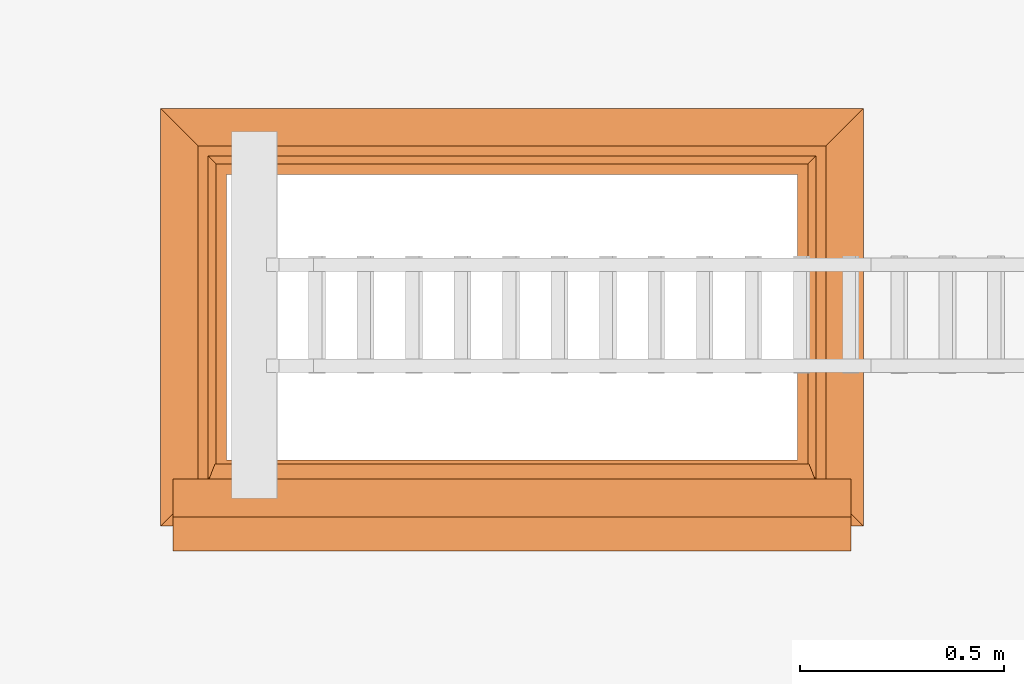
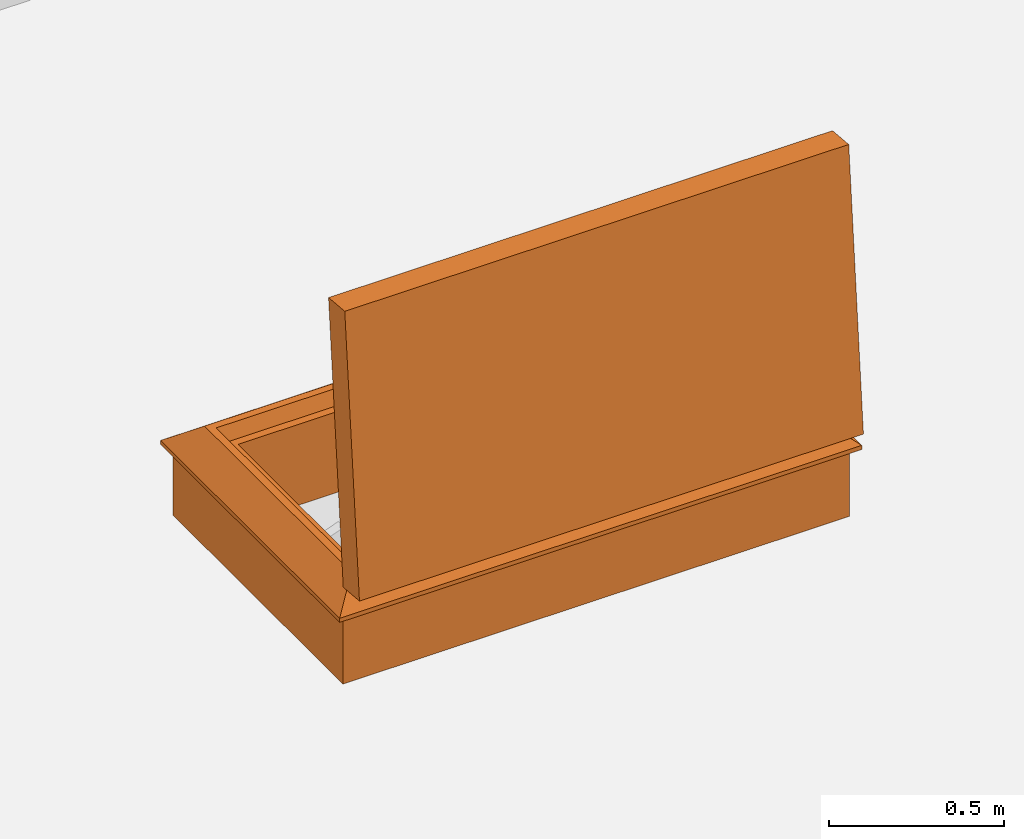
# One storey, part 26 of 28: 1 proxy.
"""IFC2X3 building model written with IfcOpenShell, lengths in millimetres."""

from ifc_helpers import new_model, entity, si_unit, converted_unit, derived_unit, direction, frame, origin, place, context, subcontext, project, spatial, faceted_brep, source, transform, mapped, type_object, type_shapes, element, save


model = new_model("IFC2X3")

# Units and contexts
model_context = context("Model", 3, precision=0.01, world=origin(), true_north=direction((6.12303176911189e-17, 1.0)))
body_context = subcontext(model_context, "Body", "Model", "MODEL_VIEW")
ifc_project = project(units=[si_unit("LENGTHUNIT", "METRE", prefix="MILLI"), si_unit("AREAUNIT", "SQUARE_METRE"), si_unit("VOLUMEUNIT", "CUBIC_METRE"), converted_unit("PLANEANGLEUNIT", "DEGREE", entity("IfcRatioMeasure", 0.0174532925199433), si_unit("PLANEANGLEUNIT", "RADIAN"), dimensions=[0, 0, 0, 0, 0, 0, 0]), si_unit("MASSUNIT", "GRAM", prefix="KILO"), derived_unit("MASSDENSITYUNIT", [(si_unit("MASSUNIT", "GRAM", prefix="KILO"), 1), (si_unit("LENGTHUNIT", "METRE"), -3)]), si_unit("TIMEUNIT", "SECOND"), si_unit("FREQUENCYUNIT", "HERTZ"), si_unit("THERMODYNAMICTEMPERATUREUNIT", "DEGREE_CELSIUS"), derived_unit("THERMALTRANSMITTANCEUNIT", [(si_unit("MASSUNIT", "GRAM", prefix="KILO"), 1), (si_unit("THERMODYNAMICTEMPERATUREUNIT", "KELVIN"), -1), (si_unit("TIMEUNIT", "SECOND"), -3)]), derived_unit("VOLUMETRICFLOWRATEUNIT", [(si_unit("LENGTHUNIT", "METRE"), 3), (si_unit("TIMEUNIT", "SECOND"), -1)]), si_unit("ELECTRICCURRENTUNIT", "AMPERE"), si_unit("ELECTRICVOLTAGEUNIT", "VOLT"), si_unit("POWERUNIT", "WATT"), si_unit("FORCEUNIT", "NEWTON", prefix="KILO"), si_unit("ILLUMINANCEUNIT", "LUX"), si_unit("LUMINOUSFLUXUNIT", "LUMEN"), si_unit("LUMINOUSINTENSITYUNIT", "CANDELA"), derived_unit("USERDEFINED", [(si_unit("MASSUNIT", "GRAM", prefix="KILO"), -1), (si_unit("LENGTHUNIT", "METRE"), -2), (si_unit("TIMEUNIT", "SECOND"), 3), (si_unit("LUMINOUSFLUXUNIT", "LUMEN"), 1)]), derived_unit("LINEARVELOCITYUNIT", [(si_unit("LENGTHUNIT", "METRE"), 1), (si_unit("TIMEUNIT", "SECOND"), -1)]), si_unit("PRESSUREUNIT", "PASCAL"), derived_unit("USERDEFINED", [(si_unit("LENGTHUNIT", "METRE"), -2), (si_unit("MASSUNIT", "GRAM", prefix="KILO"), 1), (si_unit("TIMEUNIT", "SECOND"), -2)])], contexts=[model_context])

# Site, building, storey
site_placement = place(None, origin())
site = spatial("IfcSite", under=ifc_project, at=site_placement, Name="Default", CompositionType="ELEMENT")
building_placement = place(site_placement, origin())
building = spatial("IfcBuilding", under=site, at=building_placement, CompositionType="ELEMENT")
storey_placement = place(building_placement, frame((0.0, 0.0, 4000.0)))
storey = spatial("IfcBuildingStorey", under=building, at=storey_placement, Name="Level 2", CompositionType="ELEMENT", Elevation=4000.0)

# Proxy
building_element_proxy_type = type_object("IfcBuildingElementProxyType", Name="1400 x 700 3part Stair", PredefinedType="NOTDEFINED")
shared_shape = source(origin(), body_context, "Body", "Brep", [
    faceted_brep([(-1499.57464776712, -351.993124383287, 340.652428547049), (-1499.57464776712, -350.619817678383, 341.518171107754), (-1499.57464776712, -349.079207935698, 342.030033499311), (-1499.57464776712, -347.460863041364, 342.158257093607), (-1499.57464776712, -345.858870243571, 341.89538723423), (-1499.57464776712, -344.366366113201, 341.256706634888), (-1499.57464776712, -343.070121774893, 340.279346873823), (-1499.57464776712, -342.045498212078, 339.020129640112), (-1499.57464776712, -341.352064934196, 337.552263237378), (-1499.57464776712, -341.030136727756, 335.961086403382), (-1499.57464776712, -341.098429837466, 334.339106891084), (-1499.57464776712, -340.635094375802, 329.90669213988), (-1499.57464776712, -337.979621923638, 326.327663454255), (-1499.57464776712, -304.11313780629, 313.826813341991), (-1499.57464776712, -350.965266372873, 276.345110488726), (-1499.57464776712, -360.90830222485, 288.773905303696), (-1499.57464776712, -361.276948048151, 290.251026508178), (-1499.57464776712, -361.242166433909, 291.7730570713), (-1499.57464776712, -353.932832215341, 338.078280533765), (-1499.57464776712, -353.119286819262, 339.483138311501), (-1472.20689636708, -337.979621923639, 326.327663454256), (-1472.20689636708, -304.113137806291, 313.826813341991), (-1472.20689636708, -350.965266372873, 276.345110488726), (-1472.20689636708, -360.90830222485, 288.773905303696), (-1489.14512741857, -360.908302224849, 288.773905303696), (-1488.70057290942, -361.276948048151, 290.251026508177), (-1472.20689636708, -361.276948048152, 290.251026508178), (-1472.20689636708, -361.242166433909, 291.7730570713), (-1489.14512741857, -361.242166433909, 291.7730570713), (-1472.20689636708, -353.932832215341, 338.078280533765), (-1472.20689636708, -353.119286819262, 339.483138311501), (-1472.20689636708, -351.993124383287, 340.652428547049), (-1472.20689636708, -350.619817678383, 341.518171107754), (-1472.20689636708, -349.079207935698, 342.030033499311), (-1472.20689636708, -347.460863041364, 342.158257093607), (-1472.20689636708, -345.858870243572, 341.89538723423), (-1472.20689636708, -343.070121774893, 340.279346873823), (-1472.20689636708, -344.366366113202, 341.256706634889), (-1472.20689636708, -342.045498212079, 339.020129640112), (-1472.20689636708, -341.352064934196, 337.552263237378), (-1472.20689636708, -341.030136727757, 335.961086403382), (-1472.20689636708, -341.098429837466, 334.339106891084), (-1472.20689636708, -340.635094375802, 329.90669213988)], [[[0, 1, 2, 3, 4, 5, 6, 7, 8, 9, 10, 11, 12, 13, 14, 15, 16, 17, 18, 19]], [[13, 12, 20, 21]], [[14, 13, 21, 22]], [[14, 22, 23, 24, 15]], [[25, 16, 15, 24, 23, 26]], [[25, 26, 27, 28, 17, 16]], [[18, 17, 28, 27, 29]], [[30, 19, 18, 29]], [[31, 0, 19, 30]], [[2, 1, 32, 33]], [[31, 32, 1, 0]], [[3, 2, 33, 34]], [[4, 3, 34, 35]], [[36, 6, 5, 37]], [[38, 7, 6, 36]], [[9, 8, 39, 40]], [[38, 39, 8, 7]], [[10, 9, 40, 41]], [[37, 5, 4, 35]], [[41, 42, 11, 10]], [[20, 12, 11, 42]], [[22, 21, 20, 42, 41, 40, 39, 38, 36, 37, 35, 34, 33, 32, 31, 30, 29, 27, 26, 23]]]),
    faceted_brep([(-182.337074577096, -304.113137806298, 313.826813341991), (-182.337074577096, -337.979621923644, 326.327663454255), (-152.350888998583, -337.979621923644, 326.327663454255), (-152.350888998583, -304.113137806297, 313.826813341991), (-182.337074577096, -350.96526637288, 276.345110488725), (-152.350888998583, -350.965266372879, 276.345110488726), (-182.337074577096, -360.908302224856, 288.773905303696), (-152.350888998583, -360.908302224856, 288.773905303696), (-161.478030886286, -360.908302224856, 288.773905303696), (-171.90755260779, -360.908302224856, 288.773905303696), (-152.350888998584, -361.276948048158, 290.251026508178), (-182.337074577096, -361.276948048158, 290.251026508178), (-162.780411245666, -361.242166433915, 291.7730570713), (-152.350888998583, -361.242166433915, 291.7730570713), (-173.209933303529, -361.242166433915, 291.7730570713), (-182.337074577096, -361.242166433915, 291.7730570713), (-166.692795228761, -361.28220209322, 290.300156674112), (-182.337074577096, -353.932832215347, 338.078280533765), (-152.350888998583, -353.932832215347, 338.078280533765), (-152.350888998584, -353.119286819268, 339.483138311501), (-182.337074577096, -353.119286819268, 339.483138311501), (-152.350888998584, -351.993124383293, 340.652428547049), (-182.337074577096, -351.993124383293, 340.652428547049), (-182.337074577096, -349.079207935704, 342.030033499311), (-182.337074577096, -350.619817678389, 341.518171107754), (-152.350888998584, -350.619817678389, 341.518171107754), (-152.350888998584, -349.079207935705, 342.030033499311), (-182.337074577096, -347.460863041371, 342.158257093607), (-152.350888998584, -347.460863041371, 342.158257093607), (-182.337074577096, -345.858870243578, 341.89538723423), (-152.350888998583, -345.858870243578, 341.89538723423), (-152.350888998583, -344.366366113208, 341.256706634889), (-182.337074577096, -344.366366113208, 341.256706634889), (-152.350888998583, -343.070121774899, 340.279346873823), (-182.337074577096, -343.070121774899, 340.279346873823), (-182.337074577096, -341.352064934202, 337.552263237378), (-182.337074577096, -342.045498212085, 339.020129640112), (-152.350888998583, -342.045498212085, 339.020129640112), (-152.350888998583, -341.352064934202, 337.552263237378), (-182.337074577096, -341.030136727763, 335.961086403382), (-152.350888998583, -341.030136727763, 335.961086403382), (-182.337074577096, -341.098429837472, 334.339106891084), (-152.350888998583, -341.098429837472, 334.339106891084), (-152.350888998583, -340.635094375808, 329.90669213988), (-182.337074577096, -340.635094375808, 329.90669213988)], [[[0, 1, 2, 3]], [[4, 0, 3, 5]], [[6, 4, 5, 7, 8, 9]], [[10, 8, 7]], [[11, 6, 9]], [[12, 10, 13]], [[14, 15, 11]], [[8, 10, 16]], [[16, 11, 9]], [[16, 9, 8]], [[14, 11, 16]], [[10, 12, 16]], [[12, 14, 16]], [[17, 15, 14, 12, 13, 18]], [[19, 20, 17, 18]], [[21, 22, 20, 19]], [[23, 24, 25, 26]], [[21, 25, 24, 22]], [[27, 23, 26, 28]], [[29, 27, 28, 30]], [[31, 32, 29, 30]], [[33, 34, 32, 31]], [[35, 36, 37, 38]], [[33, 37, 36, 34]], [[39, 35, 38, 40]], [[41, 39, 40, 42]], [[42, 43, 44, 41]], [[2, 1, 44, 43]], [[43, 42, 40, 38, 37, 33, 31, 30, 28, 26, 25, 21, 19, 18, 13, 10, 7, 5, 3, 2]], [[36, 35, 39, 41, 44, 1, 0, 4, 6, 11, 15, 17, 20, 22, 24, 23, 27, 29, 32, 34]]]),
    faceted_brep([(-61.2697623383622, 553.447095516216, 328.0), (30.7302376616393, 645.447095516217, 254.399999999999), (-1693.26976233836, 645.447095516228, 254.4), (-1601.26976233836, 553.447095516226, 328.0), (-105.269762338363, 509.447095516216, 282.0), (-85.7439207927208, 528.972937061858, 328.0), (-1576.795603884, 528.972937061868, 328.0), (-1557.26976233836, 509.447095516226, 282.0), (-131.269762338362, 483.447095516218, 0.0), (-131.269762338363, 483.447095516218, 282.0), (-1531.26976233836, 483.447095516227, 282.0), (-1531.26976233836, 483.447095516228, 0.0), (4.73023766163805, 619.447095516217, 240.0), (4.73023766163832, 619.447095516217, 0.0), (-1667.26976233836, 619.447095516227, 0.0), (-1667.26976233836, 619.447095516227, 240.0), (30.7302376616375, 645.447095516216, 240.0), (-1693.26976233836, 645.447095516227, 240.0), (-1693.26976233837, -378.552904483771, 254.4), (-1601.26976233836, -286.552904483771, 328.0), (-1576.79560388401, -262.078746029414, 328.0), (-1557.26976233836, -242.552904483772, 282.0), (-1531.26976233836, -216.552904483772, 282.0), (-1531.26976233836, -216.552904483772, 0.0), (-1667.26976233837, -352.552904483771, 0.0), (-1667.26976233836, -352.552904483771, 240.0), (-1693.26976233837, -378.552904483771, 240.0), (30.7302376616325, -378.552904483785, 254.4), (-61.2697623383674, -286.552904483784, 328.0), (-85.743920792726, -262.078746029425, 328.0), (-105.269762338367, -242.552904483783, 282.0), (-131.269762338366, -216.552904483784, 282.0), (-131.269762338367, -216.552904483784, 0.0), (4.73023766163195, -352.552904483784, 0.0), (4.73023766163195, -352.552904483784, 240.0), (30.7302376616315, -378.552904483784, 240.0)], [[[0, 1, 2, 3]], [[4, 5, 6, 7]], [[8, 9, 10, 11]], [[12, 13, 14, 15]], [[1, 16, 17, 2]], [[3, 2, 18, 19]], [[7, 6, 20, 21]], [[11, 10, 22, 23]], [[15, 14, 24, 25]], [[2, 17, 26, 18]], [[19, 18, 27, 28]], [[21, 20, 29, 30]], [[23, 22, 31, 32]], [[25, 24, 33, 34]], [[18, 26, 35, 27]], [[28, 27, 1, 0]], [[3, 19, 28, 0], [5, 29, 20, 6]], [[30, 29, 5, 4]], [[7, 21, 30, 4], [9, 31, 22, 10]], [[32, 31, 9, 8]], [[11, 23, 32, 8], [13, 33, 24, 14]], [[34, 33, 13, 12]], [[15, 25, 34, 12], [16, 35, 26, 17]], [[27, 35, 16, 1]]], outer=[[True], [True], [True], [True], [True], [True], [True], [True], [True], [True], [True], [True], [True], [True], [True], [True], [True, False], [True], [True, False], [True], [False, True], [True], [False, True], [True]]),
    faceted_brep([(-1534.26693391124, -367.286388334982, 1173.32805698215), (-1534.26693391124, -428.818342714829, 470.014600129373), (-128.272590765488, -428.81834271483, 470.014600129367), (-128.272590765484, -367.286388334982, 1173.32805698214), (-1534.26693391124, -228.416847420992, 1161.17854644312), (-128.272590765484, -228.416847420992, 1161.17854644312), (-128.272590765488, -289.94880180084, 457.865089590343), (-1534.26693391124, -289.94880180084, 457.86508959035)], [[[0, 1, 2, 3]], [[4, 5, 6, 7]], [[1, 0, 4, 7]], [[2, 1, 7, 6]], [[3, 2, 6, 5]], [[0, 3, 5, 4]]]),
    faceted_brep([(-128.272590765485, -228.416847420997, 1161.17854644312), (-128.272590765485, -367.286388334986, 1173.32805698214), (-1534.26693391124, -367.286388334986, 1173.32805698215), (-1534.26693391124, -228.416847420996, 1161.17854644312), (-85.2725907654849, -270.892584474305, 1208.05894492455), (-102.872590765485, -226.203091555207, 1186.48189177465), (-1559.66693391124, -226.203091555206, 1186.48189177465), (-1577.26693391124, -270.892584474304, 1208.05894492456), (0.727409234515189, -356.043297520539, 1301.83717303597), (0.727409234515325, -263.397190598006, 1293.73168896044), (-1663.26693391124, -263.397190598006, 1293.73168896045), (-1663.26693391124, -356.043297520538, 1301.83717303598), (-1534.26693391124, -428.818342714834, 470.014600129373), (-1534.26693391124, -289.948801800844, 457.865089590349), (-1559.66693391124, -292.162557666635, 432.561744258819), (-1577.26693391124, -339.919932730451, 419.072744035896), (-1663.26693391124, -347.41532660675, 333.400000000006), (-1663.26693391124, -440.061433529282, 341.505484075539), (-128.27259076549, -428.818342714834, 470.014600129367), (-128.27259076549, -289.948801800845, 457.865089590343), (-102.87259076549, -292.162557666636, 432.561744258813), (-85.2725907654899, -339.919932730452, 419.07274403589), (0.727409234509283, -347.41532660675, 333.399999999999), (0.727409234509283, -440.061433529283, 341.505484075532)], [[[0, 1, 2, 3]], [[4, 5, 6, 7]], [[8, 9, 10, 11]], [[3, 2, 12, 13]], [[7, 6, 14, 15]], [[11, 10, 16, 17]], [[13, 12, 18, 19]], [[15, 14, 20, 21]], [[17, 16, 22, 23]], [[19, 18, 1, 0]], [[3, 13, 19, 0], [5, 20, 14, 6]], [[21, 20, 5, 4]], [[7, 15, 21, 4], [9, 22, 16, 10]], [[23, 22, 9, 8]], [[1, 18, 12, 2], [11, 17, 23, 8]]], outer=[[True], [True], [True], [True], [True], [True], [True], [True], [True], [True], [False, True], [True], [False, True], [True], [False, True]]),
])
type_shapes(building_element_proxy_type, [shared_shape])
proxy_placement = place(storey_placement, frame((2641.32250918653, 9740.33582063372, 400.0)))
element("IfcBuildingElementProxy", 1, at=proxy_placement, inside=storey, type_object=building_element_proxy_type, Name="3_Topaccess_dakluik_1400x700_Staka:1400 x 700 3part Stair", ObjectType="1400 x 700 3part Stair", context=body_context, shape_type="MappedRepresentation", body=[
    mapped(shared_shape, transform((0.0, 0.0, 0.0), scale=1.0)),
])

save(model, "model.ifc")
